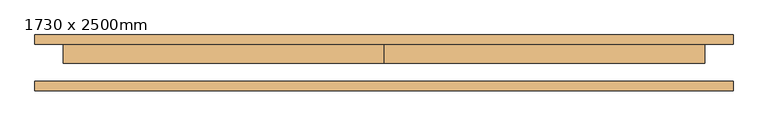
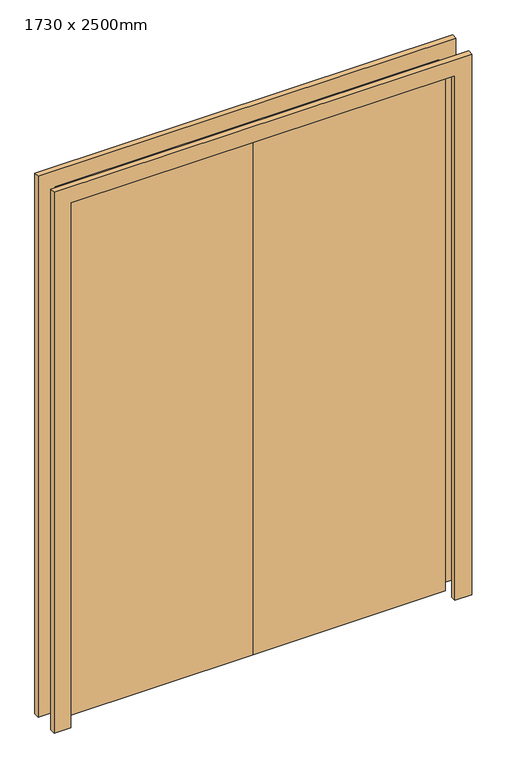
"""IFC4 building model written with IfcOpenShell, lengths in millimetres: door geometry, Puerta atamborada de 2 hojas : 1730 x 2500mm."""

from ifc_helpers import new_model, si_unit, frame, origin, origin_with_axes, place, context, project, spatial, polyline, outline, extrude, source, transform, mapped, element, save


def door_1730_x_2500mm_de458978(model_context):
    return source(origin(), model_context, "Body", "SweptSolid", [
        extrude(outline(polyline([(0.0, 50.0), (865.0, 50.0), (865.0, -1.0), (0.0, -1.0), (0.0, 50.0)])), origin_with_axes(), (0.0, 0.0, 1.0), 2500.0),
        extrude(outline(polyline([(-865.0, 50.0), (0.0, 50.0), (0.0, -1.0), (-865.0, -1.0), (-865.0, 50.0)])), origin_with_axes(), (0.0, 0.0, 1.0), 2500.0),
        extrude(outline(polyline([(2500.0, -865.0), (2500.0, 865.0), (0.0, 865.0), (0.0, 941.0), (2576.0, 941.0), (2576.0, -941.0), (0.0, -941.0), (0.0, -865.0), (2500.0, -865.0)])), frame((0.0, -75.0, 0.0), z_axis=(0.0, 1.0, 0.0), x_axis=(0.0, 0.0, 1.0)), (0.0, 0.0, 1.0), 25.0),
        extrude(outline(polyline([(2500.0, -865.0), (2500.0, 865.0), (0.0, 865.0), (0.0, 941.0), (2576.0, 941.0), (2576.0, -941.0), (0.0, -941.0), (0.0, -865.0), (2500.0, -865.0)])), frame((0.0, 50.0, 0.0), z_axis=(0.0, 1.0, 0.0), x_axis=(0.0, 0.0, 1.0)), (0.0, 0.0, 1.0), 25.0),
    ])


if __name__ == "__main__":
    model = new_model("IFC4")
    model_context = context("Model", 3, world=origin())
    ifc_project = project(units=[si_unit("LENGTHUNIT", "METRE", prefix="MILLI")], contexts=[model_context])
    site = spatial("IfcSite", under=ifc_project)
    building = spatial("IfcBuilding", under=site)
    placement = place(None, origin())
    door_1730_x_2500mm_shape = door_1730_x_2500mm_de458978(model_context)
    element("IfcDoor", 1, ObjectType="Puerta atamborada de 2 hojas : 1730 x 2500mm", at=placement, inside=building, context=model_context, shape_type="MappedRepresentation", body=[
        mapped(door_1730_x_2500mm_shape, transform((0.0, 0.0, 0.0), x_axis=(1.0, 0.0, 0.0), y_axis=(0.0, 1.0, 0.0), z_axis=(0.0, 0.0, 1.0))),
    ])
    save(model, "model.ifc")
